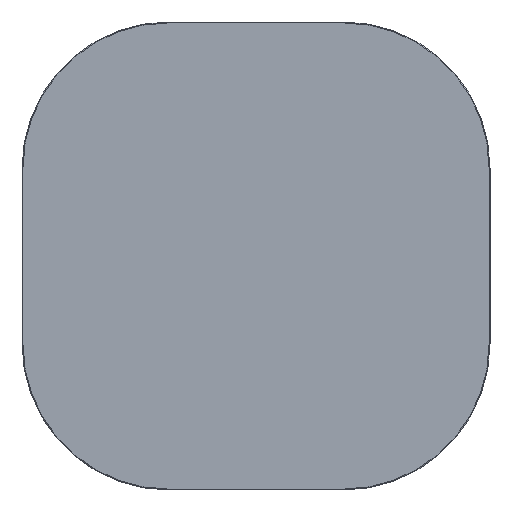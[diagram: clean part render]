
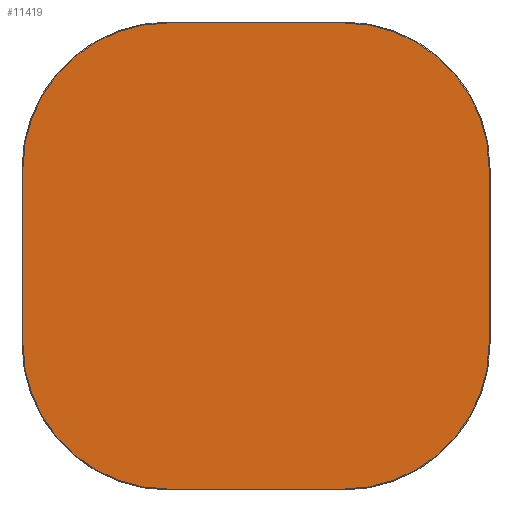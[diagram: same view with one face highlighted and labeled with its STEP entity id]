
A CAD part, top view. The second image highlights one B-rep face of the part: STEP entity #11419.
In plain terms, the highlighted planar face has unit normal (0, 0, 1).
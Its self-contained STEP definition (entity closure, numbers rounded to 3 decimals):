
#11344=CARTESIAN_POINT('',(0.,0.,20.));
#11345=DIRECTION('',(1.,0.,0.));
#11346=DIRECTION('',(0.,0.,1.));
#11347=AXIS2_PLACEMENT_3D('',#11344,#11346,#11345);
#11348=PLANE('',#11347);
#11349=CARTESIAN_POINT('',(-150.,-398.5,20.));
#11350=VERTEX_POINT('',#11349);
#11351=CARTESIAN_POINT('',(150.,-398.5,20.));
#11352=VERTEX_POINT('',#11351);
#11353=CARTESIAN_POINT('',(-150.,-398.5,20.));
#11354=DIRECTION('',(1.,0.,0.));
#11355=VECTOR('',#11354,300.);
#11356=LINE('',#11353,#11355);
#11357=EDGE_CURVE('',#11350,#11352,#11356,.T.);
#11358=ORIENTED_EDGE('E105',*,*,#11357,.T.);
#11359=CARTESIAN_POINT('',(398.5,-150.,20.));
#11360=VERTEX_POINT('',#11359);
#11361=CARTESIAN_POINT('',(150.,-150.,20.));
#11362=DIRECTION('',(0.,-1.,0.));
#11363=DIRECTION('',(0.,0.,1.));
#11364=AXIS2_PLACEMENT_3D('',#11361,#11363,#11362);
#11365=CIRCLE('',#11364,248.5);
#11366=EDGE_CURVE('',#11352,#11360,#11365,.T.);
#11367=ORIENTED_EDGE('E107',*,*,#11366,.T.);
#11368=CARTESIAN_POINT('',(398.5,150.,20.));
#11369=VERTEX_POINT('',#11368);
#11370=CARTESIAN_POINT('',(398.5,-150.,20.));
#11371=DIRECTION('',(0.,1.,0.));
#11372=VECTOR('',#11371,300.);
#11373=LINE('',#11370,#11372);
#11374=EDGE_CURVE('',#11360,#11369,#11373,.T.);
#11375=ORIENTED_EDGE('E109',*,*,#11374,.T.);
#11376=CARTESIAN_POINT('',(150.,398.5,20.));
#11377=VERTEX_POINT('',#11376);
#11378=CARTESIAN_POINT('',(150.,150.,20.));
#11379=DIRECTION('',(1.,0.,0.));
#11380=DIRECTION('',(0.,0.,1.));
#11381=AXIS2_PLACEMENT_3D('',#11378,#11380,#11379);
#11382=CIRCLE('',#11381,248.5);
#11383=EDGE_CURVE('',#11369,#11377,#11382,.T.);
#11384=ORIENTED_EDGE('E111',*,*,#11383,.T.);
#11385=CARTESIAN_POINT('',(-150.,398.5,20.));
#11386=VERTEX_POINT('',#11385);
#11387=CARTESIAN_POINT('',(150.,398.5,20.));
#11388=DIRECTION('',(-1.,0.,0.));
#11389=VECTOR('',#11388,300.);
#11390=LINE('',#11387,#11389);
#11391=EDGE_CURVE('',#11377,#11386,#11390,.T.);
#11392=ORIENTED_EDGE('E113',*,*,#11391,.T.);
#11393=CARTESIAN_POINT('',(-398.5,150.,20.));
#11394=VERTEX_POINT('',#11393);
#11395=CARTESIAN_POINT('',(-150.,150.,20.));
#11396=DIRECTION('',(0.,1.,0.));
#11397=DIRECTION('',(0.,0.,1.));
#11398=AXIS2_PLACEMENT_3D('',#11395,#11397,#11396);
#11399=CIRCLE('',#11398,248.5);
#11400=EDGE_CURVE('',#11386,#11394,#11399,.T.);
#11401=ORIENTED_EDGE('E115',*,*,#11400,.T.);
#11402=CARTESIAN_POINT('',(-398.5,-150.,20.));
#11403=VERTEX_POINT('',#11402);
#11404=CARTESIAN_POINT('',(-398.5,150.,20.));
#11405=DIRECTION('',(0.,-1.,0.));
#11406=VECTOR('',#11405,300.);
#11407=LINE('',#11404,#11406);
#11408=EDGE_CURVE('',#11394,#11403,#11407,.T.);
#11409=ORIENTED_EDGE('E117',*,*,#11408,.T.);
#11410=CARTESIAN_POINT('',(-150.,-150.,20.));
#11411=DIRECTION('',(-1.,0.,0.));
#11412=DIRECTION('',(-0.,0.,1.));
#11413=AXIS2_PLACEMENT_3D('',#11410,#11412,#11411);
#11414=CIRCLE('',#11413,248.5);
#11415=EDGE_CURVE('',#11403,#11350,#11414,.T.);
#11416=ORIENTED_EDGE('E119',*,*,#11415,.T.);
#11417=EDGE_LOOP('',(#11358,#11367,#11375,#11384,#11392,#11401,#11409,#11416));
#11418=FACE_OUTER_BOUND('',#11417,.T.);
#11419=ADVANCED_FACE('F2',(#11418),#11348,.T.);
